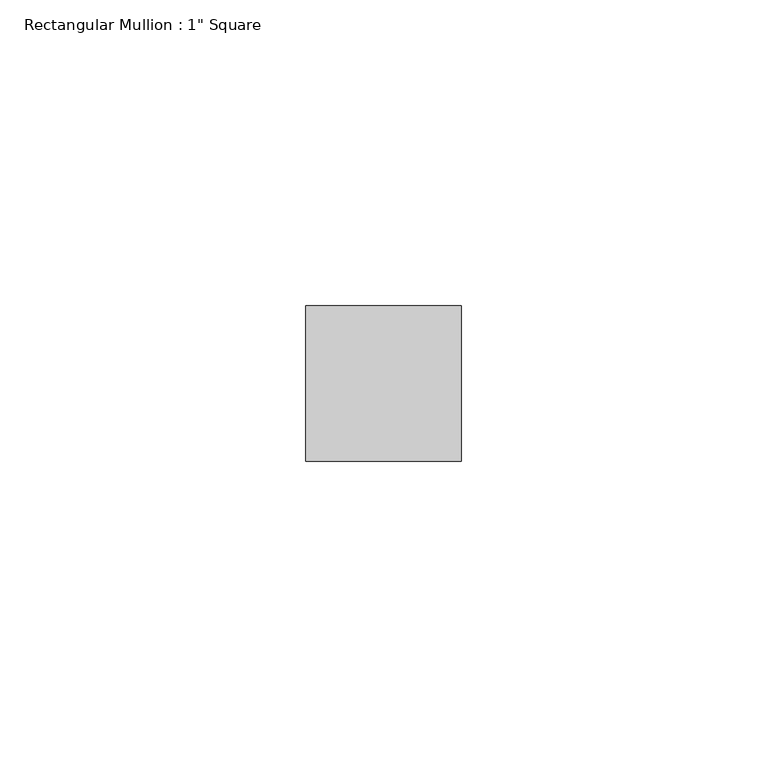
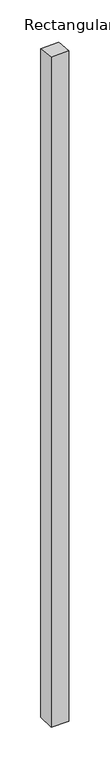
"""IFC4 building model written with IfcOpenShell, lengths in millimetres: member geometry."""

from ifc_helpers import new_model, si_unit, origin, place, context, project, spatial, faceted_brep, source, transform, mapped, element, save


def member_89d23786(model_context):
    return source(origin(), model_context, "Body", "Brep", [
        faceted_brep([(0.0, 12.7, -1004.6900408), (0.0, -12.7, -1004.6900408), (-25.4, -12.7, -1004.6900408), (-25.4, 12.7, -1004.6900408), (-25.4, 12.7, -2.0951534), (0.0, 12.7, -1.3501313), (-25.4, -12.7, 0.6051091), (0.0, -12.7, 1.3501313)], [[[0, 1, 2, 3]], [[4, 5, 0, 3]], [[6, 4, 3, 2]], [[7, 6, 2, 1]], [[5, 7, 1, 0]], [[5, 4, 6, 7]]]),
    ])


if __name__ == "__main__":
    model = new_model("IFC4")
    model_context = context("Model", 3, world=origin())
    ifc_project = project(units=[si_unit("LENGTHUNIT", "METRE", prefix="MILLI")], contexts=[model_context])
    site = spatial("IfcSite", under=ifc_project)
    building = spatial("IfcBuilding", under=site)
    placement = place(None, origin())
    member_shape = member_89d23786(model_context)
    element("IfcMember", 1, ObjectType="Rectangular Mullion : 1\" Square", at=placement, inside=building, context=model_context, shape_type="MappedRepresentation", body=[
        mapped(member_shape, transform((0.0, 0.0, 0.0), x_axis=(1.0, 0.0, 0.0), y_axis=(0.0, 1.0, 0.0), z_axis=(0.0, 0.0, 1.0))),
    ])
    save(model, "model.ifc")
